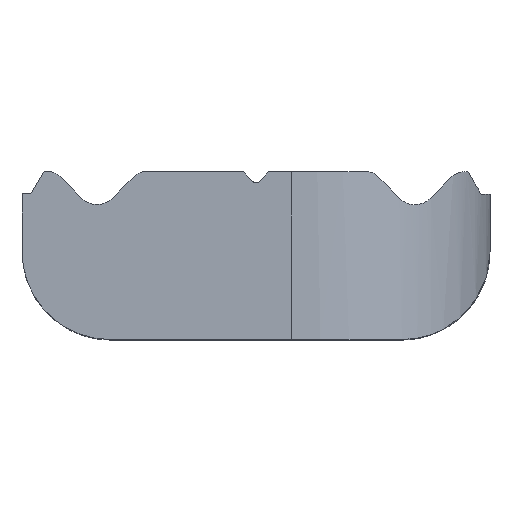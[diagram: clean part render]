
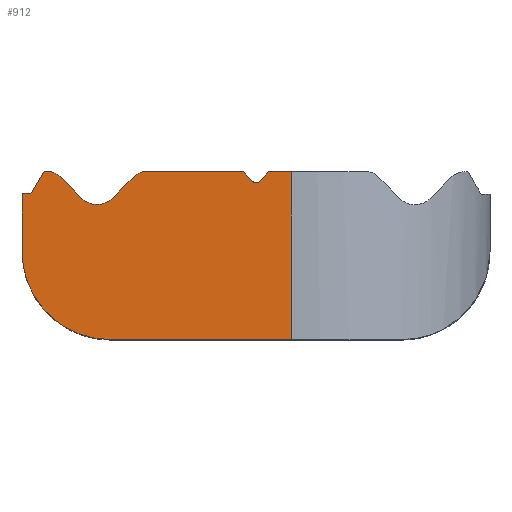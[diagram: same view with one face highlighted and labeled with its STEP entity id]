
A CAD part, top view. The second image highlights one B-rep face of the part: STEP entity #912.
In plain terms, the highlighted planar face has unit normal (0, 0, 1).
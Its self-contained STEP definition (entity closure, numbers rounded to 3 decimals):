
#117 = CARTESIAN_POINT ( 'NONE',  ( -3.3, 1.6, -4.4 ) ) ;
#272 = ORIENTED_EDGE ( 'NONE', *, *, #7209, .T. ) ;
#280 = EDGE_CURVE ( 'NONE', #3611, #2106, #2986, .T. ) ;
#615 = ORIENTED_EDGE ( 'NONE', *, *, #8731, .T. ) ;
#616 = AXIS2_PLACEMENT_3D ( 'NONE', #2815, #1113, #4106 ) ;
#839 = VERTEX_POINT ( 'NONE', #7669 ) ;
#863 = CARTESIAN_POINT ( 'NONE',  ( 0., 5.25, -4.4 ) ) ;
#912 = ADVANCED_FACE ( 'NONE', ( #4641 ), #3991, .F. ) ;
#935 = VERTEX_POINT ( 'NONE', #2444 ) ;
#1045 = CIRCLE ( 'NONE', #5425, 0.3 ) ;
#1113 = DIRECTION ( 'NONE',  ( 0., 0., 1. ) ) ;
#1198 = LINE ( 'NONE', #6173, #8742 ) ;
#1303 = CARTESIAN_POINT ( 'NONE',  ( -2.526, 5.1, -4.4 ) ) ;
#1315 = ORIENTED_EDGE ( 'NONE', *, *, #4394, .F. ) ;
#1354 = ORIENTED_EDGE ( 'NONE', *, *, #280, .F. ) ;
#1448 = CARTESIAN_POINT ( 'NONE',  ( -7.391, 5.4, -4.4 ) ) ;
#1507 = CARTESIAN_POINT ( 'NONE',  ( -4.462, 5.312, -4.4 ) ) ;
#1590 = CARTESIAN_POINT ( 'NONE',  ( 0.8, 1.6, -4.4 ) ) ;
#1591 = DIRECTION ( 'NONE',  ( -1., 0., 0. ) ) ;
#1654 = CARTESIAN_POINT ( 'NONE',  ( -0.071, 5.179, -4.4 ) ) ;
#1934 = CARTESIAN_POINT ( 'NONE',  ( 0.8, 5.4, -4.4 ) ) ;
#1987 = AXIS2_PLACEMENT_3D ( 'NONE', #4546, #4770, #3172 ) ;
#2037 = DIRECTION ( 'NONE',  ( -1., 0., 0. ) ) ;
#2057 = CARTESIAN_POINT ( 'NONE',  ( -2.65, 5.4, -4.4 ) ) ;
#2073 = CARTESIAN_POINT ( 'NONE',  ( -3.246, 4.804, -4.4 ) ) ;
#2106 = VERTEX_POINT ( 'NONE', #2073 ) ;
#2131 = LINE ( 'NONE', #8372, #5776 ) ;
#2180 = DIRECTION ( 'NONE',  ( -1., 0., 0. ) ) ;
#2258 = VERTEX_POINT ( 'NONE', #7556 ) ;
#2279 = EDGE_LOOP ( 'NONE', ( #1315, #7055, #615, #6289, #2408, #7542, #7465, #272, #9305, #1354, #7717, #8693, #5106, #4413, #5540, #8315, #9221 ) ) ;
#2408 = ORIENTED_EDGE ( 'NONE', *, *, #7723, .F. ) ;
#2444 = CARTESIAN_POINT ( 'NONE',  ( -5.1, 4.9, -4.4 ) ) ;
#2557 = CARTESIAN_POINT ( 'NONE',  ( 0.8, 4.9, -4.4 ) ) ;
#2809 = EDGE_CURVE ( 'NONE', #935, #9103, #1198, .T. ) ;
#2815 = CARTESIAN_POINT ( 'NONE',  ( -3.6, 5.157, -4.4 ) ) ;
#2928 = DIRECTION ( 'NONE',  ( 0., 0., 1. ) ) ;
#2986 = CIRCLE ( 'NONE', #616, 0.5 ) ;
#3153 = DIRECTION ( 'NONE',  ( -1., 0., 0. ) ) ;
#3172 = DIRECTION ( 'NONE',  ( -1., 0., 0. ) ) ;
#3256 = CARTESIAN_POINT ( 'NONE',  ( -3.954, 4.804, -4.4 ) ) ;
#3348 = CARTESIAN_POINT ( 'NONE',  ( -3.3, 3.6, -4.4 ) ) ;
#3521 = CARTESIAN_POINT ( 'NONE',  ( -4.8, 5.4, -4.4 ) ) ;
#3578 = CARTESIAN_POINT ( 'NONE',  ( -0.291, 5.4, -4.4 ) ) ;
#3611 = VERTEX_POINT ( 'NONE', #3256 ) ;
#3616 = CARTESIAN_POINT ( 'NONE',  ( 0., 5.109, -4.4 ) ) ;
#3989 = EDGE_CURVE ( 'NONE', #9293, #9103, #6337, .T. ) ;
#3991 = PLANE ( 'NONE',  #1987 ) ;
#4087 = DIRECTION ( 'NONE',  ( -1., 0., 0. ) ) ;
#4106 = DIRECTION ( 'NONE',  ( -1., 0., 0. ) ) ;
#4384 = VECTOR ( 'NONE', #3153, 1000. ) ;
#4394 = EDGE_CURVE ( 'NONE', #5751, #7746, #4718, .T. ) ;
#4413 = ORIENTED_EDGE ( 'NONE', *, *, #2809, .F. ) ;
#4546 = CARTESIAN_POINT ( 'NONE',  ( -7.391, 1.6, -4.4 ) ) ;
#4641 = FACE_OUTER_BOUND ( 'NONE', #2279, .T. ) ;
#4661 = EDGE_CURVE ( 'NONE', #5531, #5878, #5514, .T. ) ;
#4683 = EDGE_CURVE ( 'NONE', #5531, #8847, #9400, .T. ) ;
#4718 = LINE ( 'NONE', #5372, #8375 ) ;
#4770 = DIRECTION ( 'NONE',  ( 0., 0., -1. ) ) ;
#4797 = DIRECTION ( 'NONE',  ( 0., -1., 0. ) ) ;
#5047 = CARTESIAN_POINT ( 'NONE',  ( -5.1, 4.9, -4.4 ) ) ;
#5106 = ORIENTED_EDGE ( 'NONE', *, *, #3989, .T. ) ;
#5174 = VECTOR ( 'NONE', #7712, 1000. ) ;
#5323 = EDGE_CURVE ( 'NONE', #6210, #8625, #7114, .T. ) ;
#5325 = CARTESIAN_POINT ( 'NONE',  ( -7.391, 5.4, -4.4 ) ) ;
#5353 = DIRECTION ( 'NONE',  ( 0.707, -0.707, 0. ) ) ;
#5364 = AXIS2_PLACEMENT_3D ( 'NONE', #863, #5958, #1591 ) ;
#5372 = CARTESIAN_POINT ( 'NONE',  ( -7.391, 1.6, -4.4 ) ) ;
#5408 = EDGE_CURVE ( 'NONE', #7746, #6136, #6434, .T. ) ;
#5425 = AXIS2_PLACEMENT_3D ( 'NONE', #7304, #2928, #8042 ) ;
#5440 = VECTOR ( 'NONE', #4797, 1000. ) ;
#5470 = DIRECTION ( 'NONE',  ( -1., 0., 0. ) ) ;
#5514 = LINE ( 'NONE', #3616, #7464 ) ;
#5531 = VERTEX_POINT ( 'NONE', #3578 ) ;
#5540 = ORIENTED_EDGE ( 'NONE', *, *, #5553, .F. ) ;
#5553 = EDGE_CURVE ( 'NONE', #839, #935, #6664, .T. ) ;
#5554 = AXIS2_PLACEMENT_3D ( 'NONE', #1303, #6413, #2037 ) ;
#5746 = DIRECTION ( 'NONE',  ( 1., 0., 0. ) ) ;
#5751 = VERTEX_POINT ( 'NONE', #1590 ) ;
#5776 = VECTOR ( 'NONE', #5470, 1000. ) ;
#5798 = CARTESIAN_POINT ( 'NONE',  ( 0.071, 5.179, -4.4 ) ) ;
#5878 = VERTEX_POINT ( 'NONE', #1654 ) ;
#5958 = DIRECTION ( 'NONE',  ( 0., 0., 1. ) ) ;
#6136 = VERTEX_POINT ( 'NONE', #7860 ) ;
#6173 = CARTESIAN_POINT ( 'NONE',  ( -4.8, 5.4, -4.4 ) ) ;
#6210 = VERTEX_POINT ( 'NONE', #5798 ) ;
#6257 = EDGE_CURVE ( 'NONE', #6836, #9293, #1045, .T. ) ;
#6289 = ORIENTED_EDGE ( 'NONE', *, *, #5323, .F. ) ;
#6337 = LINE ( 'NONE', #5325, #4384 ) ;
#6345 = CARTESIAN_POINT ( 'NONE',  ( 0.291, 5.4, -4.4 ) ) ;
#6413 = DIRECTION ( 'NONE',  ( 0., 0., 1. ) ) ;
#6434 = CIRCLE ( 'NONE', #7757, 2. ) ;
#6664 = LINE ( 'NONE', #5047, #7930 ) ;
#6836 = VERTEX_POINT ( 'NONE', #1507 ) ;
#6940 = EDGE_CURVE ( 'NONE', #6836, #3611, #8137, .T. ) ;
#7055 = ORIENTED_EDGE ( 'NONE', *, *, #9028, .T. ) ;
#7114 = LINE ( 'NONE', #6345, #5174 ) ;
#7115 = VERTEX_POINT ( 'NONE', #1934 ) ;
#7209 = EDGE_CURVE ( 'NONE', #8847, #2258, #7511, .T. ) ;
#7241 = VECTOR ( 'NONE', #2180, 1000. ) ;
#7265 = CARTESIAN_POINT ( 'NONE',  ( -2.526, 5.4, -4.4 ) ) ;
#7304 = CARTESIAN_POINT ( 'NONE',  ( -4.674, 5.1, -4.4 ) ) ;
#7395 = VECTOR ( 'NONE', #7876, 1000. ) ;
#7464 = VECTOR ( 'NONE', #7905, 1000. ) ;
#7465 = ORIENTED_EDGE ( 'NONE', *, *, #4683, .T. ) ;
#7511 = CIRCLE ( 'NONE', #5554, 0.3 ) ;
#7540 = EDGE_CURVE ( 'NONE', #839, #6136, #9334, .T. ) ;
#7542 = ORIENTED_EDGE ( 'NONE', *, *, #4661, .F. ) ;
#7556 = CARTESIAN_POINT ( 'NONE',  ( -2.738, 5.312, -4.4 ) ) ;
#7634 = EDGE_CURVE ( 'NONE', #2106, #2258, #8876, .T. ) ;
#7664 = DIRECTION ( 'NONE',  ( 0., 1., 0. ) ) ;
#7667 = DIRECTION ( 'NONE',  ( 0.514, 0.857, 0. ) ) ;
#7669 = CARTESIAN_POINT ( 'NONE',  ( -5.3, 4.9, -4.4 ) ) ;
#7712 = DIRECTION ( 'NONE',  ( 0.707, 0.707, 0. ) ) ;
#7717 = ORIENTED_EDGE ( 'NONE', *, *, #6940, .F. ) ;
#7723 = EDGE_CURVE ( 'NONE', #5878, #6210, #8647, .T. ) ;
#7746 = VERTEX_POINT ( 'NONE', #117 ) ;
#7757 = AXIS2_PLACEMENT_3D ( 'NONE', #3348, #8453, #4087 ) ;
#7860 = CARTESIAN_POINT ( 'NONE',  ( -5.3, 3.6, -4.4 ) ) ;
#7876 = DIRECTION ( 'NONE',  ( 0.707, 0.707, 0. ) ) ;
#7905 = DIRECTION ( 'NONE',  ( 0.707, -0.707, 0. ) ) ;
#7930 = VECTOR ( 'NONE', #5746, 1000. ) ;
#8042 = DIRECTION ( 'NONE',  ( -1., 0., 0. ) ) ;
#8137 = LINE ( 'NONE', #8267, #8418 ) ;
#8232 = CARTESIAN_POINT ( 'NONE',  ( -4.674, 5.4, -4.4 ) ) ;
#8267 = CARTESIAN_POINT ( 'NONE',  ( -4.55, 5.4, -4.4 ) ) ;
#8288 = CARTESIAN_POINT ( 'NONE',  ( 0.291, 5.4, -4.4 ) ) ;
#8315 = ORIENTED_EDGE ( 'NONE', *, *, #7540, .T. ) ;
#8372 = CARTESIAN_POINT ( 'NONE',  ( -7.391, 5.4, -4.4 ) ) ;
#8375 = VECTOR ( 'NONE', #9078, 1000. ) ;
#8418 = VECTOR ( 'NONE', #5353, 1000. ) ;
#8453 = DIRECTION ( 'NONE',  ( 0., 0., -1. ) ) ;
#8508 = LINE ( 'NONE', #2557, #8749 ) ;
#8625 = VERTEX_POINT ( 'NONE', #8288 ) ;
#8647 = CIRCLE ( 'NONE', #5364, 0.1 ) ;
#8693 = ORIENTED_EDGE ( 'NONE', *, *, #6257, .T. ) ;
#8731 = EDGE_CURVE ( 'NONE', #7115, #8625, #2131, .T. ) ;
#8742 = VECTOR ( 'NONE', #7667, 1000. ) ;
#8749 = VECTOR ( 'NONE', #7664, 1000. ) ;
#8847 = VERTEX_POINT ( 'NONE', #7265 ) ;
#8876 = LINE ( 'NONE', #2057, #7395 ) ;
#9028 = EDGE_CURVE ( 'NONE', #5751, #7115, #8508, .T. ) ;
#9078 = DIRECTION ( 'NONE',  ( -1., 0., 0. ) ) ;
#9103 = VERTEX_POINT ( 'NONE', #3521 ) ;
#9161 = CARTESIAN_POINT ( 'NONE',  ( -5.3, 5.4, -4.4 ) ) ;
#9221 = ORIENTED_EDGE ( 'NONE', *, *, #5408, .F. ) ;
#9293 = VERTEX_POINT ( 'NONE', #8232 ) ;
#9305 = ORIENTED_EDGE ( 'NONE', *, *, #7634, .F. ) ;
#9334 = LINE ( 'NONE', #9161, #5440 ) ;
#9400 = LINE ( 'NONE', #1448, #7241 ) ;
